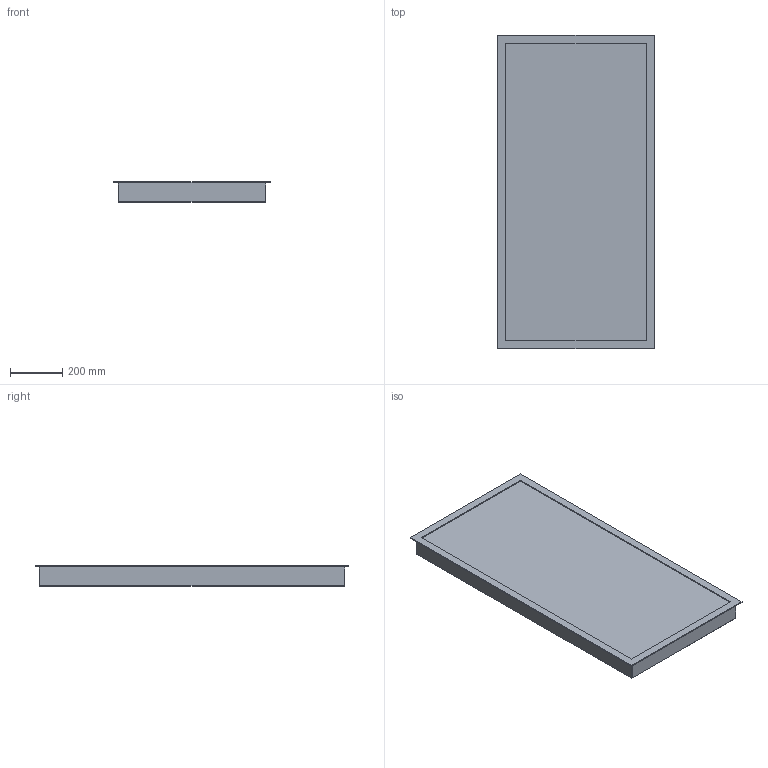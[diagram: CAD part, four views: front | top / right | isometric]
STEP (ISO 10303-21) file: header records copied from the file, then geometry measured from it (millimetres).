
FILE_DESCRIPTION(/* description */ (''),/* implementation_level */ '2;1');
FILE_NAME(/* name */ 'CONTROPLUS_GDO_CPO5.stp',/* time_stamp */ '2025-09-26T16:39:48+02:00',/* author */ ('gian.noche'),/* organization */ (''),/* preprocessor_version */ 'ST-DEVELOPER v19.2',/* originating_system */ 'Autodesk Inventor 2023',/* authorisation */ '');
FILE_SCHEMA (('AUTOMOTIVE_DESIGN { 1 0 10303 214 3 1 1 }'));
Length unit declared in the file: millimetre
Products named in the file (1): CORPO_595x1195
Bounding box: 595 x 1195 x 77 mm (x, y, z)
Volume: 48205870.3 mm3; surface area: 1697341.6 mm2
Topology: 1 solids, 1 shells, 28 faces, 60 edges, 36 vertices
Faces by surface type: plane 28
Entity records: 781 total; most frequent: CARTESIAN_POINT 125, ORIENTED_EDGE 120, DIRECTION 118, LINE 60, VECTOR 60, EDGE_CURVE 60, VERTEX_POINT 36, EDGE_LOOP 30
